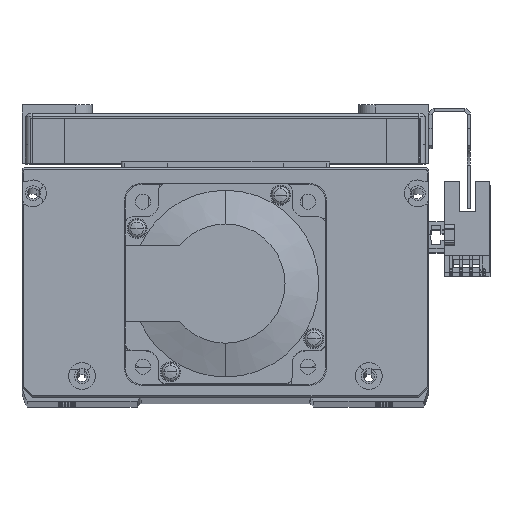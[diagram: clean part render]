
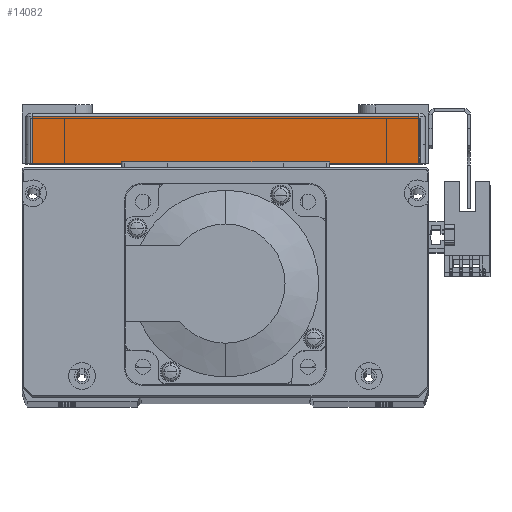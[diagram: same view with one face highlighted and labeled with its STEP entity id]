
A CAD part, top view. The second image highlights one B-rep face of the part: STEP entity #14082.
In plain terms, the highlighted planar face has unit normal (0, 0, 1) as drawn and (1, 0, 0) by its records, which use the part's own axes.
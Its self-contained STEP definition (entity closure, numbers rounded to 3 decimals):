
#2019 = EDGE_LOOP ( 'NONE', ( #17806, #17771, #17729, #17779 ) ) ;
#3004 = DIRECTION ( 'NONE',  ( 0., 0., 1. ) ) ;
#3014 = CARTESIAN_POINT ( 'NONE',  ( 82.5, 14., 58. ) ) ;
#9421 = VERTEX_POINT ( 'NONE', #37645 ) ;
#9429 = VERTEX_POINT ( 'NONE', #37638 ) ;
#9436 = VERTEX_POINT ( 'NONE', #37640 ) ;
#9476 = VERTEX_POINT ( 'NONE', #37672 ) ;
#14082 = ADVANCED_FACE ( 'NONE', ( #29922 ), #34279, .F. ) ;
#15611 = LINE ( 'NONE', #24895, #15634 ) ;
#15634 = VECTOR ( 'NONE', #24952, 1000. ) ;
#16605 = LINE ( 'NONE', #24352, #16606 ) ;
#16606 = VECTOR ( 'NONE', #24319, 1000. ) ;
#16649 = LINE ( 'NONE', #24527, #16651 ) ;
#16651 = VECTOR ( 'NONE', #24566, 1000. ) ;
#17729 = ORIENTED_EDGE ( 'NONE', *, *, #51610, .T. ) ;
#17771 = ORIENTED_EDGE ( 'NONE', *, *, #51822, .T. ) ;
#17779 = ORIENTED_EDGE ( 'NONE', *, *, #51584, .T. ) ;
#17806 = ORIENTED_EDGE ( 'NONE', *, *, #51688, .T. ) ;
#24319 = DIRECTION ( 'NONE',  ( 0., 0., -1. ) ) ;
#24352 = CARTESIAN_POINT ( 'NONE',  ( 82.5, 0., -60. ) ) ;
#24527 = CARTESIAN_POINT ( 'NONE',  ( 82.5, 15., 58. ) ) ;
#24566 = DIRECTION ( 'NONE',  ( 0., -1., 0. ) ) ;
#24895 = CARTESIAN_POINT ( 'NONE',  ( 82.5, 15., -58. ) ) ;
#24952 = DIRECTION ( 'NONE',  ( 0., 1., 0. ) ) ;
#25824 = LINE ( 'NONE', #3014, #25844 ) ;
#25844 = VECTOR ( 'NONE', #3004, 1000. ) ;
#29840 = AXIS2_PLACEMENT_3D ( 'NONE', #34280, #34321, #34318 ) ;
#29922 = FACE_OUTER_BOUND ( 'NONE', #2019, .T. ) ;
#34279 = PLANE ( 'NONE',  #29840 ) ;
#34280 = CARTESIAN_POINT ( 'NONE',  ( 82.5, 15., -60. ) ) ;
#34318 = DIRECTION ( 'NONE',  ( 0., 0., 1. ) ) ;
#34321 = DIRECTION ( 'NONE',  ( -1., 0., 0. ) ) ;
#37638 = CARTESIAN_POINT ( 'NONE',  ( 82.5, 14., 58. ) ) ;
#37640 = CARTESIAN_POINT ( 'NONE',  ( 82.5, 14., -58. ) ) ;
#37645 = CARTESIAN_POINT ( 'NONE',  ( 82.5, 0., 58. ) ) ;
#37672 = CARTESIAN_POINT ( 'NONE',  ( 82.5, 0., -58. ) ) ;
#51584 = EDGE_CURVE ( 'NONE', #9421, #9476, #16605, .T. ) ;
#51610 = EDGE_CURVE ( 'NONE', #9429, #9421, #16649, .T. ) ;
#51688 = EDGE_CURVE ( 'NONE', #9476, #9436, #15611, .T. ) ;
#51822 = EDGE_CURVE ( 'NONE', #9436, #9429, #25824, .T. ) ;
